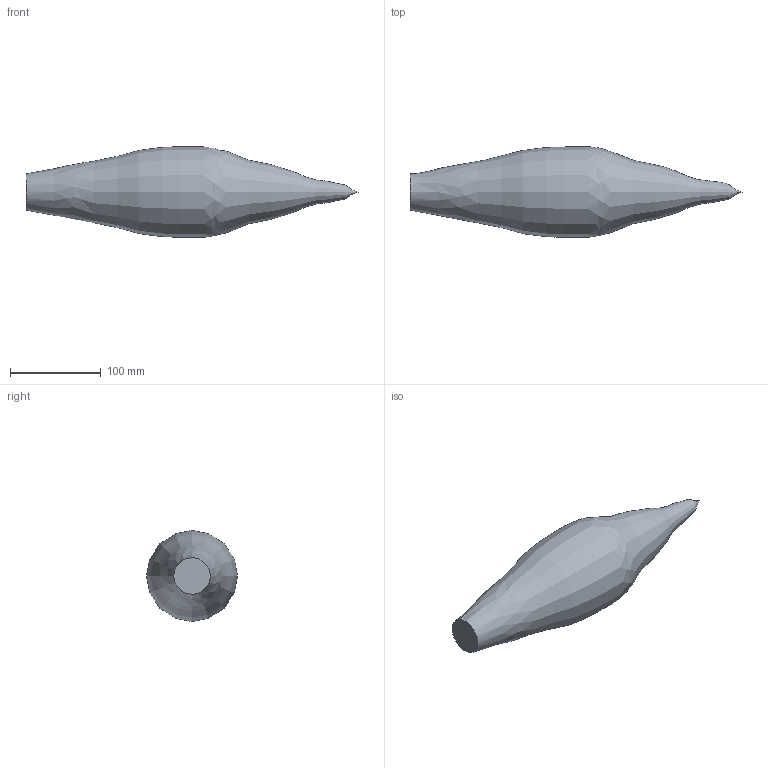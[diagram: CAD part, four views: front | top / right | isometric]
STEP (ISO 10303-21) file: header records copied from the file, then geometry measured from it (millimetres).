
FILE_DESCRIPTION((''),'2;1');
FILE_NAME('C:\Dokumente und Einstellungen\Kramp\Eigene Dateien\Microsonic Nacharbeit 2\restliche Änderungen\STP\Schallfeld Betriebstastw 240 mm Platte.stp','2005-08-11T08:22:34',('Kramp'),(''),'Autodesk Inventor 7','Autodesk Inventor 7','');
FILE_SCHEMA(('AUTOMOTIVE_DESIGN { 1 0 10303 214 1 1 1 1 }'));
Length unit declared in the file: millimetre
Products named in the file (1): Schallfeld Betriebstastw 240 mm Platte
Bounding box: 365 x 100.2 x 100.07 mm (x, y, z)
Volume: 1434228.6 mm3; surface area: 78022.9 mm2
Topology: 1 solids, 1 shells, 2 faces, 3 edges, 2 vertices
Faces by surface type: bspline 1, plane 1
Entity records: 228 total; most frequent: CARTESIAN_POINT 175, DIRECTION 6, ORIENTED_EDGE 4, AXIS2_PLACEMENT_3D 3, VERTEX_POINT 2, EDGE_CURVE 2, EDGE_LOOP 2, FACE_OUTER_BOUND 2
